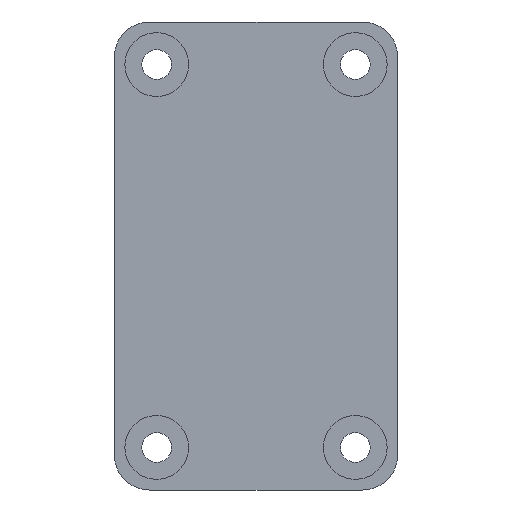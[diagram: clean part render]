
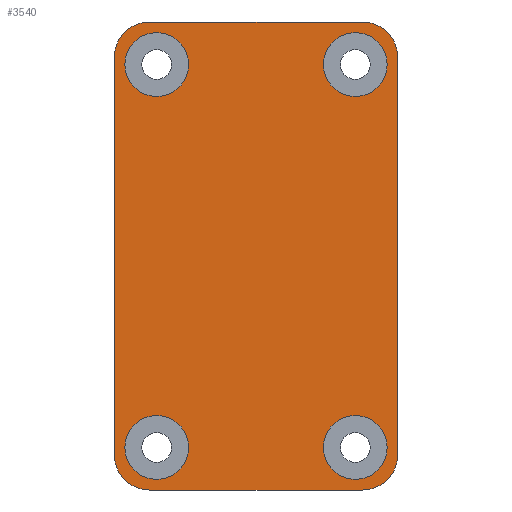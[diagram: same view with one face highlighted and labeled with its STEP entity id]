
A CAD part, front view. The second image highlights one B-rep face of the part: STEP entity #3540.
In plain terms, the highlighted planar face has unit normal (0, -1, 0) as drawn and (0, 1, 0) by its records, which use the part's own axes.
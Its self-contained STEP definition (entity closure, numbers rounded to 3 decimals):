
#4 = VERTEX_POINT ( 'NONE', #1137 ) ;
#80 = CARTESIAN_POINT ( 'NONE',  ( -13.5, 7., -7. ) ) ;
#85 = CIRCLE ( 'NONE', #3571, 2.25 ) ;
#108 = EDGE_LOOP ( 'NONE', ( #1367, #1570 ) ) ;
#220 = EDGE_LOOP ( 'NONE', ( #1068, #2074, #5269, #3600, #3503, #1806, #360, #1615 ) ) ;
#260 = AXIS2_PLACEMENT_3D ( 'NONE', #5466, #2851, #4726 ) ;
#263 = DIRECTION ( 'NONE',  ( 0., 0., 1. ) ) ;
#280 = DIRECTION ( 'NONE',  ( 0., 0., 1. ) ) ;
#302 = CIRCLE ( 'NONE', #5256, 2.25 ) ;
#347 = CARTESIAN_POINT ( 'NONE',  ( 16.5, 7., -7.5 ) ) ;
#360 = ORIENTED_EDGE ( 'NONE', *, *, #3116, .T. ) ;
#424 = DIRECTION ( 'NONE',  ( 0., 0., 1. ) ) ;
#425 = VERTEX_POINT ( 'NONE', #5667 ) ;
#441 = DIRECTION ( 'NONE',  ( 0., 1., 0. ) ) ;
#483 = AXIS2_PLACEMENT_3D ( 'NONE', #1468, #4099, #1439 ) ;
#502 = DIRECTION ( 'NONE',  ( 0., 1., 0. ) ) ;
#512 = EDGE_CURVE ( 'NONE', #4579, #1262, #4010, .T. ) ;
#524 = EDGE_LOOP ( 'NONE', ( #3122, #4982 ) ) ;
#667 = VERTEX_POINT ( 'NONE', #3288 ) ;
#704 = AXIS2_PLACEMENT_3D ( 'NONE', #4915, #3202, #3605 ) ;
#734 = LINE ( 'NONE', #3700, #3476 ) ;
#786 = VERTEX_POINT ( 'NONE', #1826 ) ;
#823 = EDGE_LOOP ( 'NONE', ( #4447, #3820 ) ) ;
#824 = CARTESIAN_POINT ( 'NONE',  ( -7.5, 7., 10. ) ) ;
#841 = AXIS2_PLACEMENT_3D ( 'NONE', #1400, #3623, #3131 ) ;
#963 = CARTESIAN_POINT ( 'NONE',  ( -13.5, 7., -7. ) ) ;
#964 = EDGE_CURVE ( 'NONE', #425, #667, #4735, .T. ) ;
#1035 = FACE_BOUND ( 'NONE', #823, .T. ) ;
#1061 = DIRECTION ( 'NONE',  ( 0., -1., 0. ) ) ;
#1063 = EDGE_CURVE ( 'NONE', #1714, #4889, #3560, .T. ) ;
#1068 = ORIENTED_EDGE ( 'NONE', *, *, #1321, .T. ) ;
#1112 = EDGE_CURVE ( 'NONE', #3517, #3790, #4206, .T. ) ;
#1137 = CARTESIAN_POINT ( 'NONE',  ( -13.5, 7., -9.25 ) ) ;
#1138 = AXIS2_PLACEMENT_3D ( 'NONE', #1313, #5295, #1801 ) ;
#1262 = VERTEX_POINT ( 'NONE', #3123 ) ;
#1313 = CARTESIAN_POINT ( 'NONE',  ( -13.5, 7., 7. ) ) ;
#1321 = EDGE_CURVE ( 'NONE', #3218, #4433, #5462, .T. ) ;
#1367 = ORIENTED_EDGE ( 'NONE', *, *, #1112, .F. ) ;
#1368 = AXIS2_PLACEMENT_3D ( 'NONE', #5172, #2124, #424 ) ;
#1394 = CARTESIAN_POINT ( 'NONE',  ( -14., 7., -10. ) ) ;
#1400 = CARTESIAN_POINT ( 'NONE',  ( 14., 7., 7.5 ) ) ;
#1416 = FACE_OUTER_BOUND ( 'NONE', #220, .T. ) ;
#1439 = DIRECTION ( 'NONE',  ( 0., 0., -1. ) ) ;
#1443 = DIRECTION ( 'NONE',  ( 0., 0., -1. ) ) ;
#1468 = CARTESIAN_POINT ( 'NONE',  ( -14., 7., -7.5 ) ) ;
#1504 = VERTEX_POINT ( 'NONE', #2141 ) ;
#1570 = ORIENTED_EDGE ( 'NONE', *, *, #5594, .F. ) ;
#1615 = ORIENTED_EDGE ( 'NONE', *, *, #4777, .T. ) ;
#1629 = CARTESIAN_POINT ( 'NONE',  ( 16.5, 7., -7.5 ) ) ;
#1631 = EDGE_CURVE ( 'NONE', #4433, #5519, #3781, .T. ) ;
#1693 = EDGE_CURVE ( 'NONE', #1504, #4, #4037, .T. ) ;
#1714 = VERTEX_POINT ( 'NONE', #4950 ) ;
#1780 = CARTESIAN_POINT ( 'NONE',  ( 14., 7., -7.5 ) ) ;
#1801 = DIRECTION ( 'NONE',  ( 0., 0., 1. ) ) ;
#1806 = ORIENTED_EDGE ( 'NONE', *, *, #4084, .T. ) ;
#1826 = CARTESIAN_POINT ( 'NONE',  ( 16.5, 7., 7.5 ) ) ;
#1847 = CARTESIAN_POINT ( 'NONE',  ( -13.5, 7., 9.25 ) ) ;
#1886 = CARTESIAN_POINT ( 'NONE',  ( 13.5, 7., 7. ) ) ;
#1896 = CARTESIAN_POINT ( 'NONE',  ( 14., 7., -10. ) ) ;
#1908 = VERTEX_POINT ( 'NONE', #2999 ) ;
#1990 = CARTESIAN_POINT ( 'NONE',  ( -14., 7., 7.5 ) ) ;
#2074 = ORIENTED_EDGE ( 'NONE', *, *, #1631, .T. ) ;
#2104 = EDGE_LOOP ( 'NONE', ( #3545, #4035 ) ) ;
#2124 = DIRECTION ( 'NONE',  ( 0., 1., 0. ) ) ;
#2141 = CARTESIAN_POINT ( 'NONE',  ( -13.5, 7., -4.75 ) ) ;
#2199 = DIRECTION ( 'NONE',  ( 0., 0., -1. ) ) ;
#2289 = EDGE_CURVE ( 'NONE', #667, #1908, #2993, .T. ) ;
#2292 = CARTESIAN_POINT ( 'NONE',  ( -7.5, 7., -7.5 ) ) ;
#2537 = DIRECTION ( 'NONE',  ( -1., 0., 0. ) ) ;
#2636 = DIRECTION ( 'NONE',  ( 0., 1., 0. ) ) ;
#2715 = DIRECTION ( 'NONE',  ( 0., 1., 0. ) ) ;
#2851 = DIRECTION ( 'NONE',  ( 0., 1., 0. ) ) ;
#2993 = LINE ( 'NONE', #824, #5035 ) ;
#2999 = CARTESIAN_POINT ( 'NONE',  ( 14., 7., 10. ) ) ;
#3000 = VECTOR ( 'NONE', #5285, 1000. ) ;
#3104 = AXIS2_PLACEMENT_3D ( 'NONE', #2292, #1061, #1443 ) ;
#3116 = EDGE_CURVE ( 'NONE', #786, #5123, #5259, .T. ) ;
#3122 = ORIENTED_EDGE ( 'NONE', *, *, #5359, .F. ) ;
#3123 = CARTESIAN_POINT ( 'NONE',  ( 13.5, 7., -4.75 ) ) ;
#3131 = DIRECTION ( 'NONE',  ( 0., 0., -1. ) ) ;
#3172 = DIRECTION ( 'NONE',  ( 0., 1., 0. ) ) ;
#3202 = DIRECTION ( 'NONE',  ( 0., 1., 0. ) ) ;
#3218 = VERTEX_POINT ( 'NONE', #1896 ) ;
#3275 = CARTESIAN_POINT ( 'NONE',  ( -7.5, 7., -10. ) ) ;
#3288 = CARTESIAN_POINT ( 'NONE',  ( -14., 7., 10. ) ) ;
#3318 = CIRCLE ( 'NONE', #5431, 2.5 ) ;
#3329 = CIRCLE ( 'NONE', #841, 2.5 ) ;
#3476 = VECTOR ( 'NONE', #280, 1000. ) ;
#3503 = ORIENTED_EDGE ( 'NONE', *, *, #2289, .T. ) ;
#3513 = EDGE_CURVE ( 'NONE', #4, #1504, #85, .T. ) ;
#3517 = VERTEX_POINT ( 'NONE', #1847 ) ;
#3540 = ADVANCED_FACE ( 'NONE', ( #4987, #3582, #5338, #1416, #1035 ), #4103, .F. ) ;
#3545 = ORIENTED_EDGE ( 'NONE', *, *, #1693, .F. ) ;
#3560 = CIRCLE ( 'NONE', #260, 2.25 ) ;
#3571 = AXIS2_PLACEMENT_3D ( 'NONE', #80, #3172, #4498 ) ;
#3582 = FACE_BOUND ( 'NONE', #2104, .T. ) ;
#3600 = ORIENTED_EDGE ( 'NONE', *, *, #964, .T. ) ;
#3605 = DIRECTION ( 'NONE',  ( 0., 0., 1. ) ) ;
#3623 = DIRECTION ( 'NONE',  ( 0., 1., 0. ) ) ;
#3652 = EDGE_CURVE ( 'NONE', #5519, #425, #734, .T. ) ;
#3700 = CARTESIAN_POINT ( 'NONE',  ( -16.5, 7., -7.5 ) ) ;
#3781 = CIRCLE ( 'NONE', #483, 2.5 ) ;
#3790 = VERTEX_POINT ( 'NONE', #4489 ) ;
#3820 = ORIENTED_EDGE ( 'NONE', *, *, #4246, .F. ) ;
#3871 = CIRCLE ( 'NONE', #1138, 2.25 ) ;
#4010 = CIRCLE ( 'NONE', #704, 2.25 ) ;
#4019 = CARTESIAN_POINT ( 'NONE',  ( 13.5, 7., -7. ) ) ;
#4035 = ORIENTED_EDGE ( 'NONE', *, *, #3513, .F. ) ;
#4037 = CIRCLE ( 'NONE', #4291, 2.25 ) ;
#4084 = EDGE_CURVE ( 'NONE', #1908, #786, #3329, .T. ) ;
#4099 = DIRECTION ( 'NONE',  ( 0., 1., 0. ) ) ;
#4103 = PLANE ( 'NONE',  #3104 ) ;
#4117 = VECTOR ( 'NONE', #2537, 1000. ) ;
#4206 = CIRCLE ( 'NONE', #1368, 2.25 ) ;
#4246 = EDGE_CURVE ( 'NONE', #4889, #1714, #302, .T. ) ;
#4291 = AXIS2_PLACEMENT_3D ( 'NONE', #963, #2715, #4462 ) ;
#4306 = CARTESIAN_POINT ( 'NONE',  ( -16.5, 7., -7.5 ) ) ;
#4378 = DIRECTION ( 'NONE',  ( 0., 0., 1. ) ) ;
#4433 = VERTEX_POINT ( 'NONE', #1394 ) ;
#4447 = ORIENTED_EDGE ( 'NONE', *, *, #1063, .F. ) ;
#4462 = DIRECTION ( 'NONE',  ( 0., 0., 1. ) ) ;
#4489 = CARTESIAN_POINT ( 'NONE',  ( -13.5, 7., 4.75 ) ) ;
#4498 = DIRECTION ( 'NONE',  ( 0., 0., 1. ) ) ;
#4579 = VERTEX_POINT ( 'NONE', #5102 ) ;
#4653 = CARTESIAN_POINT ( 'NONE',  ( 13.5, 7., 4.75 ) ) ;
#4726 = DIRECTION ( 'NONE',  ( 0., 0., 1. ) ) ;
#4735 = CIRCLE ( 'NONE', #4926, 2.5 ) ;
#4777 = EDGE_CURVE ( 'NONE', #5123, #3218, #3318, .T. ) ;
#4780 = AXIS2_PLACEMENT_3D ( 'NONE', #4019, #2636, #4378 ) ;
#4889 = VERTEX_POINT ( 'NONE', #4653 ) ;
#4915 = CARTESIAN_POINT ( 'NONE',  ( 13.5, 7., -7. ) ) ;
#4926 = AXIS2_PLACEMENT_3D ( 'NONE', #1990, #5058, #263 ) ;
#4950 = CARTESIAN_POINT ( 'NONE',  ( 13.5, 7., 9.25 ) ) ;
#4978 = DIRECTION ( 'NONE',  ( 0., 0., 1. ) ) ;
#4982 = ORIENTED_EDGE ( 'NONE', *, *, #512, .F. ) ;
#4987 = FACE_BOUND ( 'NONE', #108, .T. ) ;
#5035 = VECTOR ( 'NONE', #5169, 1000. ) ;
#5058 = DIRECTION ( 'NONE',  ( 0., 1., 0. ) ) ;
#5102 = CARTESIAN_POINT ( 'NONE',  ( 13.5, 7., -9.25 ) ) ;
#5123 = VERTEX_POINT ( 'NONE', #347 ) ;
#5169 = DIRECTION ( 'NONE',  ( 1., 0., 0. ) ) ;
#5172 = CARTESIAN_POINT ( 'NONE',  ( -13.5, 7., 7. ) ) ;
#5256 = AXIS2_PLACEMENT_3D ( 'NONE', #1886, #502, #4978 ) ;
#5259 = LINE ( 'NONE', #1629, #3000 ) ;
#5269 = ORIENTED_EDGE ( 'NONE', *, *, #3652, .T. ) ;
#5285 = DIRECTION ( 'NONE',  ( 0., 0., -1. ) ) ;
#5295 = DIRECTION ( 'NONE',  ( 0., 1., 0. ) ) ;
#5338 = FACE_BOUND ( 'NONE', #524, .T. ) ;
#5359 = EDGE_CURVE ( 'NONE', #1262, #4579, #5617, .T. ) ;
#5431 = AXIS2_PLACEMENT_3D ( 'NONE', #1780, #441, #2199 ) ;
#5462 = LINE ( 'NONE', #3275, #4117 ) ;
#5466 = CARTESIAN_POINT ( 'NONE',  ( 13.5, 7., 7. ) ) ;
#5519 = VERTEX_POINT ( 'NONE', #4306 ) ;
#5594 = EDGE_CURVE ( 'NONE', #3790, #3517, #3871, .T. ) ;
#5617 = CIRCLE ( 'NONE', #4780, 2.25 ) ;
#5667 = CARTESIAN_POINT ( 'NONE',  ( -16.5, 7., 7.5 ) ) ;
